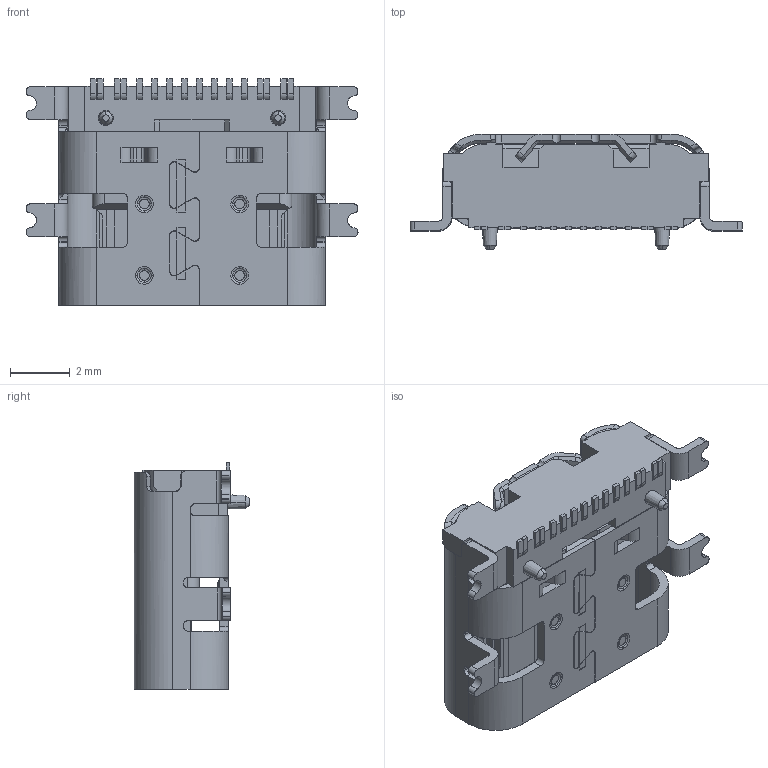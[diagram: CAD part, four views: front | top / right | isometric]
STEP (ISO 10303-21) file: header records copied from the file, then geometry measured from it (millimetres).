
FILE_DESCRIPTION (( 'STEP AP203' ), '1' );
FILE_NAME ('GT-USB-9047A.STEP', '2025-01-07T03:41:30', ( '' ), ( '' ), 'SwSTEP 2.0', 'SolidWorks 2023', '' );
FILE_SCHEMA (( 'CONFIG_CONTROL_DESIGN' ));
Length unit declared in the file: millimetre
Products named in the file (1): GT-USB-9047A
Bounding box: 11.14 x 3.89 x 7.6 mm (x, y, z)
Volume: 114.6 mm3; surface area: 512.7 mm2
Topology: 18 solids, 18 shells, 1301 faces, 3709 edges, 2463 vertices
Faces by surface type: plane 886, cylinder 268, bspline 89, torus 30, cone 28
Entity records: 48317 total; most frequent: CARTESIAN_POINT 16085, ORIENTED_EDGE 7418, DIRECTION 5486, EDGE_CURVE 3709, LINE 2730, VECTOR 2730, VERTEX_POINT 2463, AXIS2_PLACEMENT_3D 1378
